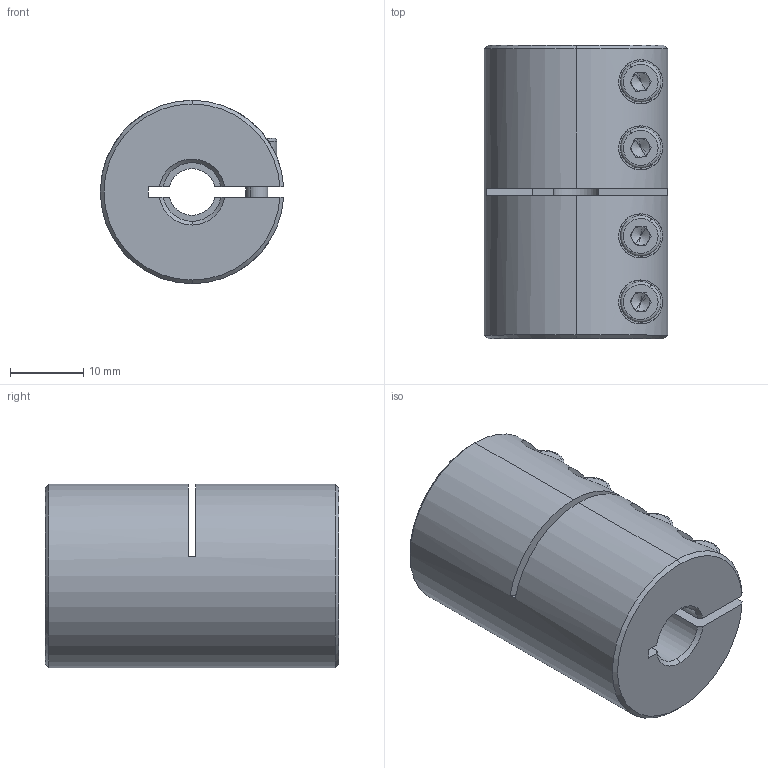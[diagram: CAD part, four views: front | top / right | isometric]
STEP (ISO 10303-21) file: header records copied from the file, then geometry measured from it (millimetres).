
FILE_DESCRIPTION (( 'STEP AP214' ), '1' );
FILE_NAME ('LL-B-D25L40-6.35-8½¨Ä£.STEP', '2022-07-21T05:13:55', ( '' ), ( '' ), 'SwSTEP 2.0', 'SolidWorks 2022', '' );
FILE_SCHEMA (( 'AUTOMOTIVE_DESIGN' ));
Length unit declared in the file: millimetre
Products named in the file (1): LL-B-D25L40-6.35-8膘耀
Bounding box: 24.98 x 40 x 25 mm (x, y, z)
Volume: 16801.9 mm3; surface area: 7113.4 mm2
Topology: 1 solids, 1 shells, 178 faces, 455 edges, 287 vertices
Faces by surface type: plane 85, cylinder 65, cone 20, torus 8
Entity records: 5838 total; most frequent: CARTESIAN_POINT 1437, DIRECTION 946, ORIENTED_EDGE 894, EDGE_CURVE 447, AXIS2_PLACEMENT_3D 364, VERTEX_POINT 287, LINE 218, VECTOR 218
